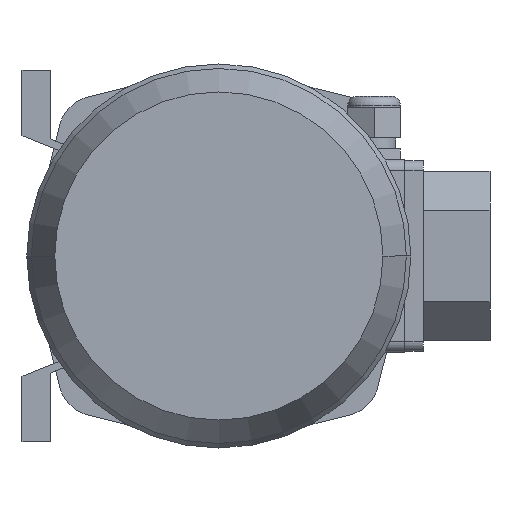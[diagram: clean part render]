
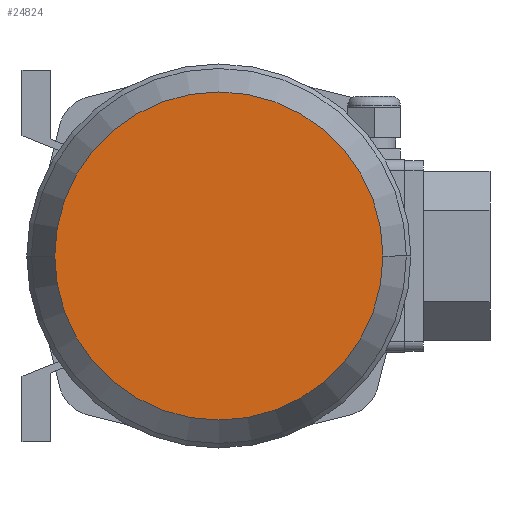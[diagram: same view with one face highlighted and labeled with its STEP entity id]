
A CAD part, front view. The second image highlights one B-rep face of the part: STEP entity #24824.
In plain terms, the highlighted planar face has unit normal (0, -1, 0) as drawn and (1, 0, 0) by its records, which use the part's own axes.
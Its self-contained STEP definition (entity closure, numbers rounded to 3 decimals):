
#17781=CARTESIAN_POINT('',(281.,0.,0.));
#17782=DIRECTION('',(-1.,0.,0.));
#17783=DIRECTION('',(0.,1.,0.));
#17784=AXIS2_PLACEMENT_3D('',#17781,#17782,#17783);
#17789=CARTESIAN_POINT('',(281.,0.,0.));
#17790=DIRECTION('',(1.,0.,0.));
#17791=DIRECTION('',(0.,1.,0.));
#17792=AXIS2_PLACEMENT_3D('',#17789,#17790,#17791);
#18924=CARTESIAN_POINT('',(281.,75.025,0.));
#18926=VERTEX_POINT('',#18924);
#18934=CARTESIAN_POINT('',(281.,-75.025,0.));
#18936=VERTEX_POINT('',#18934);
#24815=CARTESIAN_POINT('',(281.,0.,0.));
#24816=DIRECTION('',(1.,0.,0.));
#24817=DIRECTION('',(0.,-1.,0.));
#24818=AXIS2_PLACEMENT_3D('',#24815,#24816,#24817);
#24819=PLANE('',#24818);
#24820=ORIENTED_EDGE('',*,*,#24797,.T.);
#24821=ORIENTED_EDGE('',*,*,#24808,.F.);
#24822=EDGE_LOOP('',(#24820,#24821));
#24823=FACE_OUTER_BOUND('',#24822,.F.);
#17785=CIRCLE('',#17784,75.025);
#17793=CIRCLE('',#17792,75.025);
#24797=EDGE_CURVE('',#18926,#18936,#17785,.T.);
#24808=EDGE_CURVE('',#18926,#18936,#17793,.T.);
#24824=ADVANCED_FACE('',(#24823),#24819,.T.);
